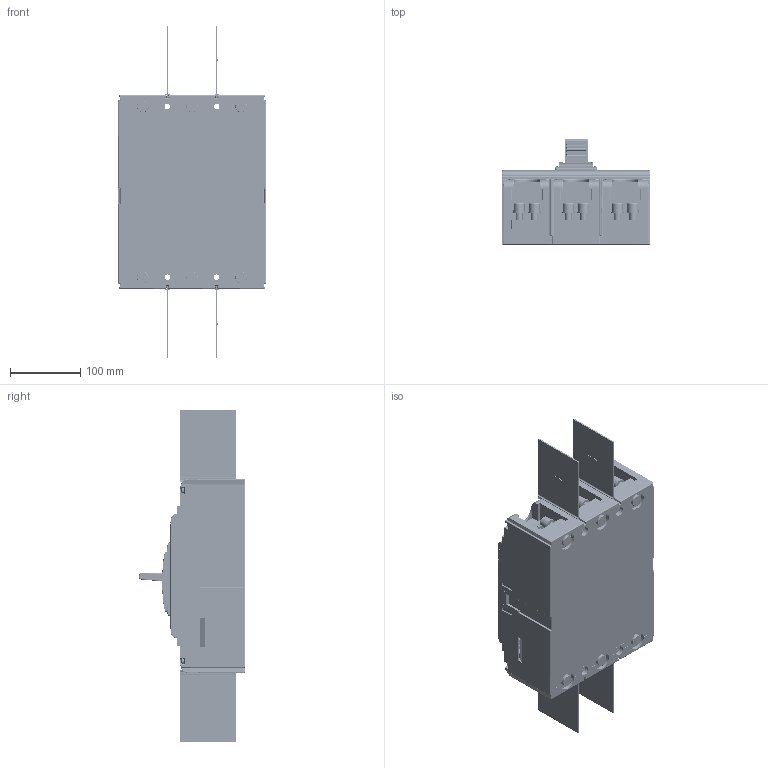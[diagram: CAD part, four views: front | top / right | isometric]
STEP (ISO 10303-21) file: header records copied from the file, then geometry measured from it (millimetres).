
FILE_DESCRIPTION((''),'2;1');
FILE_NAME('2TZD_256_6057_SW0001','2023-08-01T11:11:34',('zhenghaojing'),(''),'CREO PARAMETRIC BY PTC INC, 2020354','CREO PARAMETRIC BY PTC INC, 2020354','');
FILE_SCHEMA(('CONFIG_CONTROL_DESIGN'));
Products named in the file (1): 2TZD_256_6057_SW0001
Bounding box: 210 x 150.51 x 472.5 mm (x, y, z)
Volume: 1515293.4 mm3; surface area: 930031.4 mm2
Topology: 15 solids, 19 shells, 8996 faces, 24622 edges, 15923 vertices
Faces by surface type: plane 5642, cylinder 2263, bspline 510, cone 195, torus 192, sphere 169, extrusion 23, revolution 2
Entity records: 311457 total; most frequent: CARTESIAN_POINT 83250, ORIENTED_EDGE 49152, DIRECTION 45283, EDGE_CURVE 24576, VECTOR 17409, LINE 17386, VERTEX_POINT 15923, AXIS2_PLACEMENT_3D 13936
